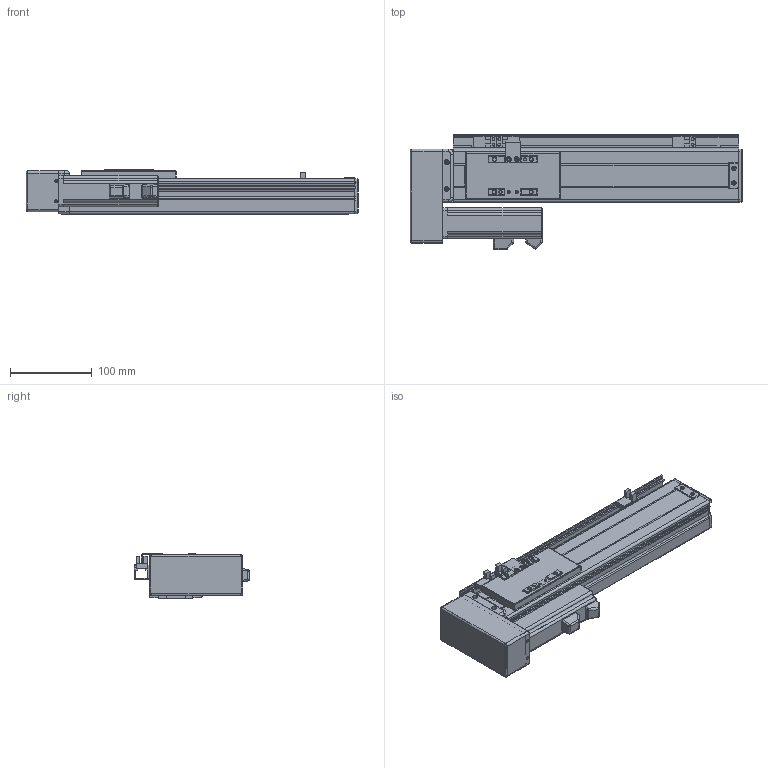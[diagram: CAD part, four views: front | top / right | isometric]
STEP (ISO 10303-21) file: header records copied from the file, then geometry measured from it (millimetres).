
FILE_DESCRIPTION (( 'STEP AP203' ), '1' );
FILE_NAME ('VT6-S200-BL.STEP', '2016-06-17T09:47:13', ( '' ), ( '' ), 'SwSTEP 2.0', 'SolidWorks 2013', '' );
FILE_SCHEMA (( 'CONFIG_CONTROL_DESIGN' ));
Length unit declared in the file: millimetre
Products named in the file (17): 侂狟100W MSMD012G1V; EE-XS674; VT6-S200-BL; ET6-BLRM絳寢_俴最200; ET6-BC耜啣_200; ET6-BLRM滅鳥湍_200; ET6-BC癹弇羲壽羞_200; ET6-BLRM佪裝_200; T6-賑雄殤; T6-BMLRヶ傷裔; T6-裔啣; T6-BMRLヶ傷裔揤啣; T6-揤輸; T6-BMRL肮祭湍謫欶; T6-覜茼え; T6-BRL萇儂假蚾啣; T6-綴傷裔
Assembly tree (19 placements, depth 2):
  VT6-S200-BL
    ET6-BC耜啣_200  x2
    ET6-BC癹弇羲壽羞_200
    T6-賑雄殤
    T6-裔啣
    T6-揤輸
    T6-覜茼え
    T6-綴傷裔
    EE-XS674  x3
    ET6-BLRM絳寢_俴最200
    ET6-BLRM滅鳥湍_200
    ET6-BLRM佪裝_200
    T6-BMLRヶ傷裔
    T6-BMRLヶ傷裔揤啣
    T6-BMRL肮祭湍謫欶
    T6-BRL萇儂假蚾啣
    侂狟100W MSMD012G1V
Bounding box: 407 x 141 x 56 mm (x, y, z)
Volume: 647863.2 mm3; surface area: 359781.2 mm2
Topology: 19 solids, 19 shells, 877 faces, 2316 edges, 1464 vertices
Faces by surface type: cylinder 403, plane 374, cone 46, torus 36, sphere 18
Entity records: 26953 total; most frequent: CARTESIAN_POINT 4537, DIRECTION 4490, ORIENTED_EDGE 4150, EDGE_CURVE 2075, AXIS2_PLACEMENT_3D 1637, VERTEX_POINT 1324, LINE 1216, VECTOR 1216
